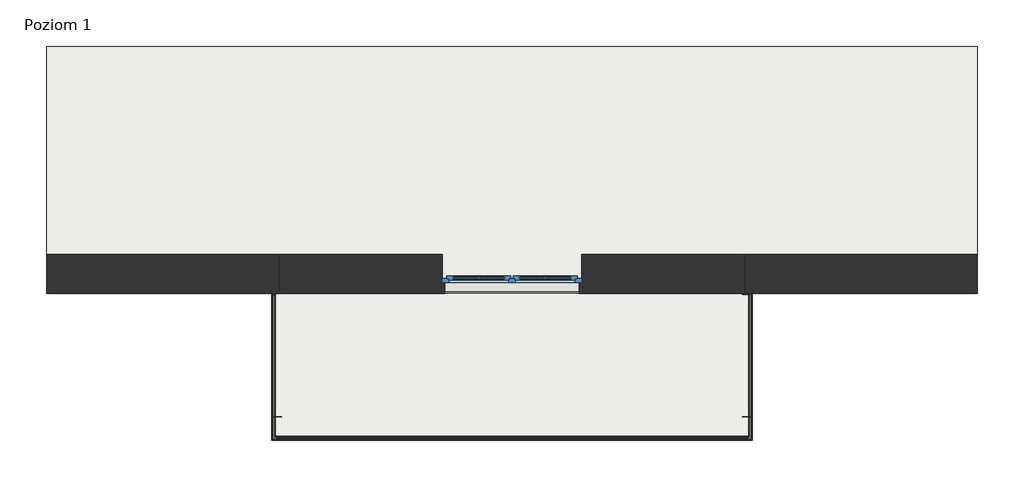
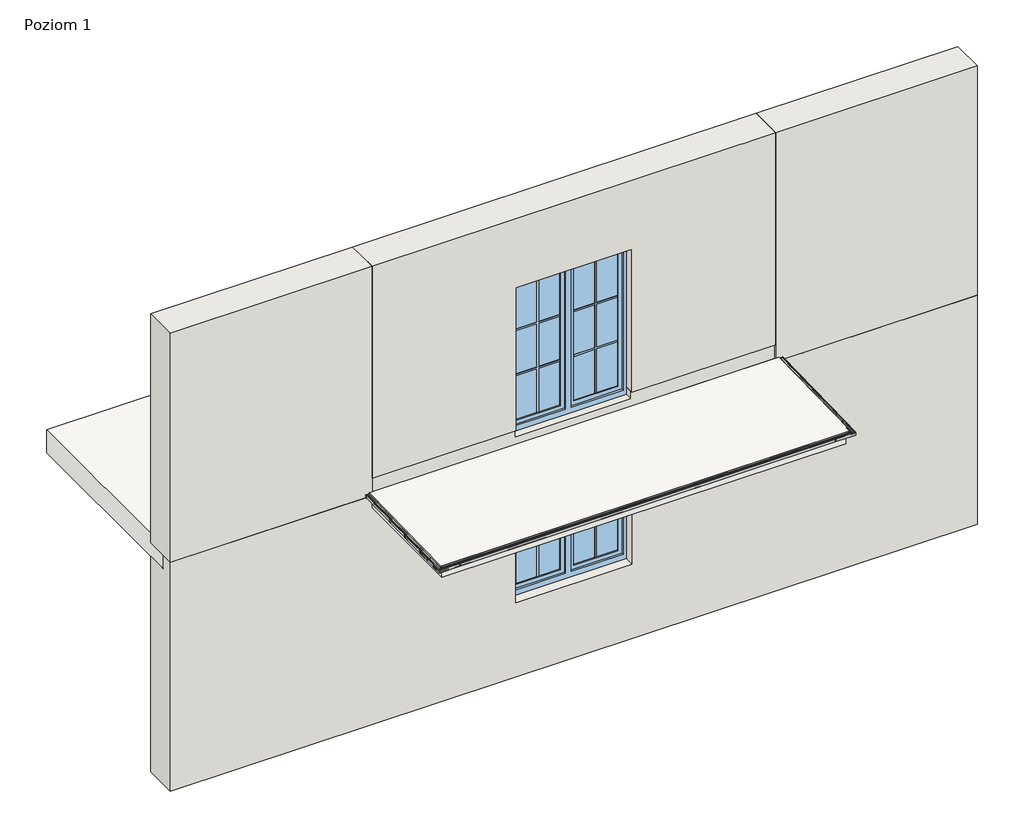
# One storey, part 1 of 4: 6 proxies, 5 walls, 3 slabs, 2 windows.
"""IFC4 building model written with IfcOpenShell, lengths in millimetres."""

from ifc_helpers import new_model, si_unit, frame, origin, place, context, project, spatial, polyline, outline, extrude, faceted_brep, transform, mapped, element, save
from components import generic_models_bb91551f, generic_models_6ab14d9f, w10_300571e7, w10_5e2c0fee, w10_debb7198, w10z_befd8e32, window_150x150_51b7f79a, window_150x200_12b14935

model = new_model("IFC4")

# Units and contexts
model_context = context("Model", 3, world=origin())
ifc_project = project(units=[si_unit("LENGTHUNIT", "METRE", prefix="MILLI")], contexts=[model_context])

# Site, building, storey
site = spatial("IfcSite", under=ifc_project)
building = spatial("IfcBuilding", under=site)
storey = spatial("IfcBuildingStorey", under=building, Name="Poziom 1", Elevation=0.0)

# Proxies
placement = place(None, origin())
generic_models_shape = generic_models_bb91551f(model_context)
element("IfcBuildingElementProxy", 1, Name="Odbojniki - OPW10 : Odbojniki - OPW10", ObjectType="Odbojniki - OPW10 : Odbojniki - OPW10", at=placement, inside=storey, context=model_context, shape_type="MappedRepresentation", body=[
    mapped(generic_models_shape, transform((-109325.8655912, 32378.6493904, -118.3502039), x_axis=(0.0, -0.9997639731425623, -0.02172551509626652), y_axis=(1.0, 0.0, 0.0), z_axis=(0.0, -0.021725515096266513, 0.9997639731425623))),
])
generic_models_2_shape = generic_models_6ab14d9f(model_context)
element("IfcBuildingElementProxy", 2, Name="Odbojniki - OPW10 : Odbojniki - OPW10", ObjectType="Odbojniki - OPW10 : Odbojniki - OPW10", at=placement, inside=storey, context=model_context, shape_type="MappedRepresentation", body=[
    mapped(generic_models_2_shape, transform((-104206.8040192, 32380.244361, -118.3155442), x_axis=(0.0, -0.9997639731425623, -0.021725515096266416), y_axis=(1.0, 0.0, 0.0), z_axis=(0.0, -0.021725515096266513, 0.9997639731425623))),
])
w10_shape = w10_300571e7(model_context)
element("IfcBuildingElementProxy", 3, Name="W10 Profil okapowy prosty : W10", ObjectType="W10 Profil okapowy prosty : W10", at=placement, inside=storey, context=model_context, shape_type="MappedRepresentation", body=[
    mapped(w10_shape, transform((-109303.3348052, 32378.0889937, -92.5618868), x_axis=(0.0, -0.9997639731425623, -0.02172551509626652), y_axis=(1.0, 0.0, 0.0), z_axis=(0.0, -0.021725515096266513, 0.9997639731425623))),
])
w10_2_shape = w10_5e2c0fee(model_context)
element("IfcBuildingElementProxy", 4, Name="W10 Profil okapowy prosty : W10", ObjectType="W10 Profil okapowy prosty : W10", at=placement, inside=storey, context=model_context, shape_type="MappedRepresentation", body=[
    mapped(w10_2_shape, transform((-104229.3348052, 32379.6839643, -92.527227), x_axis=(0.0, -0.9997639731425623, -0.021725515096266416), y_axis=(1.0, 0.0, 0.0), z_axis=(0.0, -0.021725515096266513, 0.9997639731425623))),
])
w10_3_shape = w10_debb7198(model_context)
element("IfcBuildingElementProxy", 5, Name="W10 Profil okapowy prosty : W10", ObjectType="W10 Profil okapowy prosty : W10", at=placement, inside=storey, context=model_context, shape_type="MappedRepresentation", body=[
    mapped(w10_3_shape, transform((-104229.3348052, 30853.4489346, -125.6932973), x_axis=(-1.0, 0.0, 0.0), y_axis=(0.0, -0.9997639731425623, -0.021725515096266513), z_axis=(0.0, -0.021725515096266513, 0.9997639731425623))),
])
w10z_shape = w10z_befd8e32(model_context)
element("IfcBuildingElementProxy", 6, Name="W10Z Profil okapowy prosty : W10Z", ObjectType="W10Z Profil okapowy prosty : W10Z", at=placement, inside=storey, context=model_context, shape_type="MappedRepresentation", body=[
    mapped(w10z_shape, transform((-109297.5698597, 30852.9666658, -125.7), x_axis=(1.0, 0.0, 0.0), y_axis=(0.0, 0.0, -1.0), z_axis=(0.0, 1.0, 0.0))),
])

# Slabs
element("IfcSlab", 7, ObjectType="Balkon - wykończenie - posadzka ceramiczna", at=placement, inside=storey, context=model_context, shape_type="SweptSolid", body=[
    extrude(outline(polyline([(30852.9666658, -125.7), (30852.9666658, -109.7), (32389.9666658, -76.3), (32389.9666658, -92.3), (30852.9666658, -125.7)])), frame((-109303.3348052, 0.0, 0.0), z_axis=(1.0, 0.0, 0.0), x_axis=(0.0, 1.0, 0.0)), (0.0, 0.0, 1.0), 5074.0),
])
element("IfcSlab", 8, ObjectType="Balkon - konstrukcja", at=placement, inside=storey, context=model_context, shape_type="Brep", body=[
    faceted_brep([(-109266.3348052, 30889.9666658, -285.0), (-109266.3348052, 32389.9666658, -285.0), (-109266.3348052, 32497.9666658, -285.0), (-104266.3348052, 32497.9666658, -285.0), (-104266.3348052, 32389.9666658, -285.0), (-104266.3348052, 30889.9666658, -285.0), (-109266.3348052, 30889.9666658, -125.0), (-109266.3348052, 32411.9666658, -94.0488806), (-109266.3348052, 32497.9666658, -92.3), (-109266.3348052, 32497.9666658, -125.0), (-104266.3348052, 32497.9666658, -92.3), (-104266.3348052, 32497.9666658, -125.0), (-104266.3348052, 30889.9666658, -125.0), (-104266.3348052, 32411.9666658, -94.0488806)], [[[0, 1, 2, 3, 4, 5]], [[2, 1, 0, 6, 7, 8, 9]], [[3, 2, 9, 8, 10, 11]], [[0, 5, 12, 6]], [[5, 4, 3, 11, 10, 13, 12]], [[12, 13, 10, 8, 7, 6]]]),
])
element("IfcSlab", 9, ObjectType="Strop", at=placement, inside=storey, context=model_context, shape_type="Brep", body=[
    faceted_brep([(-101766.3348052, 32544.9666658, -300.0), (-111766.3348052, 32544.9666658, -300.0), (-111766.3348052, 32809.9666658, -300.0), (-111766.3348052, 35044.9666658, -300.0), (-101766.3348052, 35044.9666658, -300.0), (-101766.3348052, 32809.9666658, -300.0), (-101766.3348052, 32544.9666658, 0.0), (-101766.3348052, 35044.9666658, 0.0), (-111766.3348052, 35044.9666658, 0.0), (-111766.3348052, 32544.9666658, 0.0), (-109266.3348052, 32544.9666658, 0.0), (-107516.3348052, 32544.9666658, 0.0), (-106016.3348052, 32544.9666658, 0.0), (-104266.3348052, 32544.9666658, 0.0), (-101766.3348052, 32544.9666658, -125.0), (-111766.3348052, 32544.9666658, -125.0)], [[[0, 1, 2, 3, 4, 5]], [[6, 7, 8, 9, 10, 11, 12, 13]], [[1, 0, 14, 6, 13, 12, 11, 10, 9, 15]], [[3, 2, 1, 15, 9, 8]], [[4, 3, 8, 7]], [[0, 5, 4, 7, 6, 14]]]),
])

# Walls
element("IfcWall", 10, ObjectType="Porotherm P+W 25 + o15 + t", at=placement, inside=storey, context=model_context, shape_type="Brep", body=[
    faceted_brep([(-111766.3348052, 32389.9666658, -3125.0), (-101766.3348052, 32389.9666658, -3125.0), (-101766.3348052, 32389.9666658, -125.0), (-104266.3348052, 32389.9666658, -125.0), (-104266.3348052, 32389.9666658, -285.0), (-109266.3348052, 32389.9666658, -285.0), (-109266.3348052, 32389.9666658, -125.0), (-111766.3348052, 32389.9666658, -125.0), (-106046.3348052, 32389.9666658, -680.0), (-106046.3348052, 32389.9666658, -2150.0), (-107486.3348052, 32389.9666658, -2150.0), (-107486.3348052, 32389.9666658, -680.0), (-101766.3348052, 32809.9666658, -3125.0), (-111766.3348052, 32809.9666658, -3125.0), (-111766.3348052, 32809.9666658, -300.0), (-101766.3348052, 32809.9666658, -300.0), (-106016.3348052, 32809.9666658, -2150.0), (-106016.3348052, 32809.9666658, -650.0), (-107516.3348052, 32809.9666658, -650.0), (-107516.3348052, 32809.9666658, -2150.0), (-101766.3348052, 32544.9666658, -300.0), (-101766.3348052, 32544.9666658, -125.0), (-104266.3348052, 32544.9666658, -125.0), (-109266.3348052, 32544.9666658, -125.0), (-111766.3348052, 32544.9666658, -125.0), (-109266.3348052, 32497.9666658, -125.0), (-104266.3348052, 32497.9666658, -125.0), (-111766.3348052, 32544.9666658, -300.0), (-106016.3348052, 32509.9666658, -650.0), (-106016.3348052, 32509.9666658, -2150.0), (-106046.3348052, 32509.9666658, -680.0), (-106046.3348052, 32509.9666658, -2150.0), (-104266.3348052, 32497.9666658, -285.0), (-109266.3348052, 32497.9666658, -285.0), (-107516.3348052, 32509.9666658, -650.0), (-107516.3348052, 32509.9666658, -2150.0), (-107486.3348052, 32509.9666658, -2150.0), (-107486.3348052, 32509.9666658, -680.0)], [[[0, 1, 2, 3, 4, 5, 6, 7], [8, 9, 10, 11]], [[12, 13, 14, 15], [16, 17, 18, 19]], [[1, 0, 13, 12]], [[2, 1, 12, 15, 20, 21]], [[2, 21, 22, 23, 24, 7, 6, 25, 26, 3]], [[0, 7, 24, 27, 14, 13]], [[28, 17, 16, 29]], [[8, 30, 31, 9]], [[27, 20, 15, 14]], [[20, 27, 24, 23, 22, 21]], [[32, 33, 5, 4]], [[5, 33, 25, 6]], [[33, 32, 26, 25]], [[32, 4, 3, 26]], [[17, 28, 34, 18]], [[29, 16, 19, 35, 36, 10, 9, 31]], [[34, 28, 29, 31, 30, 37, 36, 35]], [[34, 35, 19, 18]], [[30, 8, 11, 37]], [[10, 36, 37, 11]]]),
])
element("IfcWall", 11, ObjectType="Porotherm P+W 25 + o15 + t", at=placement, inside=storey, context=model_context, shape_type="Brep", body=[
    faceted_brep([(-111766.3348052, 32389.9666658, -125.0), (-109266.3348052, 32389.9666658, -125.0), (-109266.3348052, 32389.9666658, 100.0), (-109266.3348052, 32389.9666658, 2875.0), (-111766.3348052, 32389.9666658, 2875.0), (-111766.3348052, 32809.9666658, -125.0), (-111766.3348052, 32809.9666658, 2875.0), (-109266.3348052, 32809.9666658, 2875.0), (-109266.3348052, 32809.9666658, 100.0), (-109266.3348052, 32809.9666658, 0.0), (-109266.3348052, 32809.9666658, -125.0), (-111766.3348052, 32544.9666658, -125.0), (-109266.3348052, 32544.9666658, -125.0), (-109266.3348052, 32497.9666658, -125.0)], [[[0, 1, 2, 3, 4]], [[5, 6, 7, 8, 9, 10]], [[1, 0, 11, 5, 10, 12, 13]], [[4, 3, 7, 6]], [[0, 4, 6, 5, 11]], [[1, 13, 12, 10, 9, 8, 7, 3, 2]]]),
])
element("IfcWall", 12, ObjectType="Porotherm P+W 25 + o15 + t", at=placement, inside=storey, context=model_context, shape_type="Brep", body=[
    faceted_brep([(-104266.3348052, 32389.9666658, 2875.0), (-104266.3348052, 32389.9666658, 100.0), (-104266.3348052, 32389.9666658, -125.0), (-101766.3348052, 32389.9666658, -125.0), (-101766.3348052, 32389.9666658, 2875.0), (-104266.3348052, 32809.9666658, -125.0), (-104266.3348052, 32809.9666658, 0.0), (-104266.3348052, 32809.9666658, 100.0), (-104266.3348052, 32809.9666658, 2875.0), (-101766.3348052, 32809.9666658, 2875.0), (-101766.3348052, 32809.9666658, -125.0), (-104266.3348052, 32497.9666658, -125.0), (-104266.3348052, 32544.9666658, -125.0), (-101766.3348052, 32544.9666658, -125.0)], [[[0, 1, 2, 3, 4]], [[5, 6, 7, 8, 9, 10]], [[3, 2, 11, 12, 5, 10, 13]], [[4, 3, 13, 10, 9]], [[0, 4, 9, 8]], [[0, 8, 7, 6, 5, 12, 11, 2, 1]]]),
])
element("IfcWall", 13, ObjectType="Porotherm P+W 25 + o12 + pł ceramiczne", at=placement, inside=storey, context=model_context, shape_type="Brep", body=[
    faceted_brep([(-104266.3348052, 32411.9666658, 100.0), (-106046.3348052, 32411.9666658, 100.0), (-106046.3348052, 32411.9666658, 0.0), (-107486.3348052, 32411.9666658, 0.0), (-107486.3348052, 32411.9666658, 100.0), (-109266.3348052, 32411.9666658, 100.0), (-109266.3348052, 32411.9666658, -94.0488806), (-104266.3348052, 32411.9666658, -94.0488806), (-109266.3348052, 32809.9666658, 0.0), (-109266.3348052, 32809.9666658, 100.0), (-107516.3348052, 32809.9666658, 100.0), (-107516.3348052, 32809.9666658, 0.0), (-104266.3348052, 32809.9666658, 100.0), (-104266.3348052, 32809.9666658, 0.0), (-106016.3348052, 32809.9666658, 0.0), (-106016.3348052, 32809.9666658, 100.0), (-109266.3348052, 32544.9666658, -125.0), (-104266.3348052, 32544.9666658, -125.0), (-104266.3348052, 32497.9666658, -125.0), (-109266.3348052, 32497.9666658, -125.0), (-104266.3348052, 32497.9666658, -92.3), (-104266.3348052, 32544.9666658, 0.0), (-106016.3348052, 32509.9666658, 100.0), (-106046.3348052, 32509.9666658, 100.0), (-107486.3348052, 32509.9666658, 100.0), (-107516.3348052, 32509.9666658, 100.0), (-109266.3348052, 32544.9666658, 0.0), (-109266.3348052, 32497.9666658, -92.3), (-107516.3348052, 32544.9666658, 0.0), (-106016.3348052, 32544.9666658, 0.0), (-107516.3348052, 32509.9666658, 0.0), (-107486.3348052, 32509.9666658, 0.0), (-106046.3348052, 32509.9666658, 0.0), (-106016.3348052, 32509.9666658, 0.0)], [[[0, 1, 2, 3, 4, 5, 6, 7]], [[8, 9, 10, 11]], [[12, 13, 14, 15]], [[16, 17, 18, 19]], [[12, 0, 7, 20, 18, 17, 21, 13]], [[0, 12, 15, 22, 23, 1]], [[9, 5, 4, 24, 25, 10]], [[5, 9, 8, 26, 16, 19, 27, 6]], [[8, 11, 28, 26]], [[13, 21, 29, 14]], [[17, 16, 26, 28, 29, 21]], [[20, 27, 19, 18]], [[27, 20, 7, 6]], [[30, 31, 3, 2, 32, 33, 29, 28]], [[31, 30, 25, 24]], [[33, 32, 23, 22]], [[33, 22, 15, 14, 29]], [[25, 30, 28, 11, 10]], [[32, 2, 1, 23]], [[3, 31, 24, 4]]]),
])
element("IfcWall", 14, ObjectType="Porotherm P+W 25 + o15 + t", at=placement, inside=storey, context=model_context, shape_type="Brep", body=[
    faceted_brep([(-104266.3348052, 32389.9666658, 100.0), (-104266.3348052, 32389.9666658, 2875.0), (-109266.3348052, 32389.9666658, 2875.0), (-109266.3348052, 32389.9666658, 100.0), (-107486.3348052, 32389.9666658, 100.0), (-107486.3348052, 32389.9666658, 1970.0), (-106046.3348052, 32389.9666658, 1970.0), (-106046.3348052, 32389.9666658, 100.0), (-104266.3348052, 32809.9666658, 2875.0), (-104266.3348052, 32809.9666658, 100.0), (-106016.3348052, 32809.9666658, 100.0), (-106016.3348052, 32809.9666658, 2000.0), (-107516.3348052, 32809.9666658, 2000.0), (-107516.3348052, 32809.9666658, 100.0), (-109266.3348052, 32809.9666658, 100.0), (-109266.3348052, 32809.9666658, 2875.0), (-109266.3348052, 32411.9666658, 100.0), (-107516.3348052, 32509.9666658, 100.0), (-107486.3348052, 32509.9666658, 100.0), (-107486.3348052, 32411.9666658, 100.0), (-104266.3348052, 32411.9666658, 100.0), (-106046.3348052, 32411.9666658, 100.0), (-106046.3348052, 32509.9666658, 100.0), (-106016.3348052, 32509.9666658, 100.0), (-106016.3348052, 32509.9666658, 2000.0), (-106046.3348052, 32509.9666658, 1970.0), (-107516.3348052, 32509.9666658, 2000.0), (-107486.3348052, 32509.9666658, 1970.0)], [[[0, 1, 2, 3, 4, 5, 6, 7]], [[8, 9, 10, 11, 12, 13, 14, 15]], [[3, 16, 14, 13, 17, 18, 19, 4]], [[9, 20, 0, 7, 21, 22, 23, 10]], [[1, 0, 20, 9, 8]], [[2, 1, 8, 15]], [[3, 2, 15, 14, 16]], [[24, 11, 10, 23]], [[6, 25, 22, 21, 7]], [[26, 12, 11, 24]], [[26, 24, 23, 22, 25, 27, 18, 17]], [[12, 26, 17, 13]], [[27, 25, 6, 5]], [[27, 5, 4, 19, 18]]]),
])

# Windows
window_150x150_shape = window_150x150_51b7f79a(model_context)
element("IfcWindow", 15, ObjectType="OKNO_2X_W_SZ : 150x150", at=placement, inside=storey, context=model_context, shape_type="MappedRepresentation", body=[
    mapped(window_150x150_shape, transform((-106766.3348052, 32599.9666658, -3000.0), x_axis=(-1.0, 0.0, 0.0), y_axis=(0.0, -1.0, 0.0), z_axis=(0.0, 0.0, 1.0))),
])
window_150x200_shape = window_150x200_12b14935(model_context)
element("IfcWindow", 16, ObjectType="OKNO_2X_W_SZ : 150x200", at=placement, inside=storey, context=model_context, shape_type="MappedRepresentation", body=[
    mapped(window_150x200_shape, transform((-106766.3348052, 32599.9666658, -850.0), x_axis=(-1.0, 0.0, 0.0), y_axis=(0.0, -1.0, 0.0), z_axis=(0.0, 0.0, 1.0))),
])

save(model, "model.ifc")
